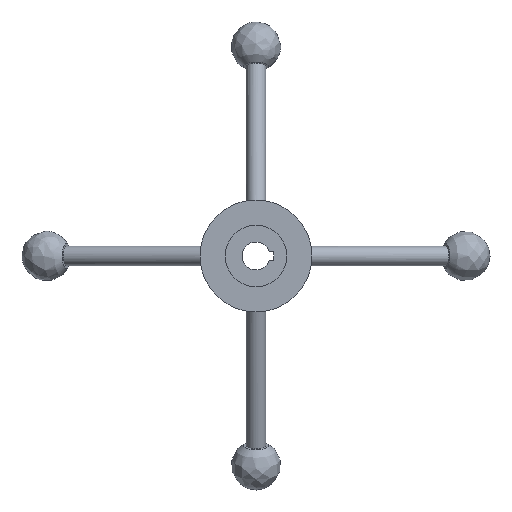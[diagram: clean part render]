
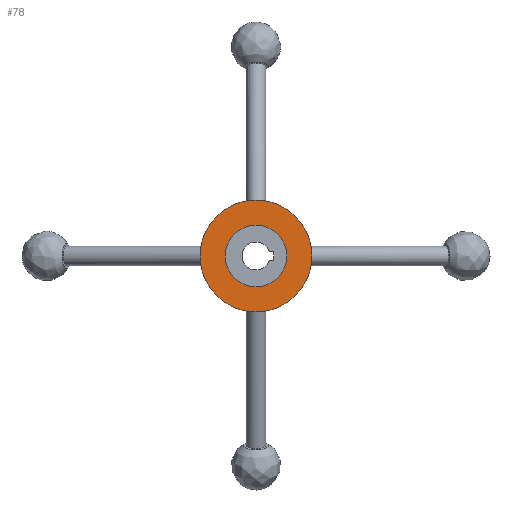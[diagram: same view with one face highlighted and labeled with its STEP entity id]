
A CAD part, front view. The second image highlights one B-rep face of the part: STEP entity #78.
In plain terms, the highlighted planar face has unit normal (0, -1, 0).
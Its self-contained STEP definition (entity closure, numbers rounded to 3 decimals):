
#78 = ADVANCED_FACE( '', ( #107, #108 ), #109, .F. );
#107 = FACE_BOUND( '', #173, .T. );
#108 = FACE_OUTER_BOUND( '', #174, .T. );
#109 = PLANE( '', #175 );
#173 = EDGE_LOOP( '', ( #384 ) );
#174 = EDGE_LOOP( '', ( #385 ) );
#175 = AXIS2_PLACEMENT_3D( '', #386, #387, #388 );
#384 = ORIENTED_EDGE( '', *, *, #489, .F. );
#385 = ORIENTED_EDGE( '', *, *, #490, .T. );
#386 = CARTESIAN_POINT( '', ( 40., 16., 0. ) );
#387 = DIRECTION( '', ( 0., 1., 0. ) );
#388 = DIRECTION( '', ( 0., 0., 1. ) );
#489 = EDGE_CURVE( '', #529, #529, #530, .T. );
#490 = EDGE_CURVE( '', #531, #531, #532, .T. );
#529 = VERTEX_POINT( '', #671 );
#530 = CIRCLE( '', #672, 22. );
#531 = VERTEX_POINT( '', #673 );
#532 = CIRCLE( '', #674, 40. );
#671 = CARTESIAN_POINT( '', ( 0., 16., -22. ) );
#672 = AXIS2_PLACEMENT_3D( '', #993, #994, #995 );
#673 = CARTESIAN_POINT( '', ( 0., 16., -40. ) );
#674 = AXIS2_PLACEMENT_3D( '', #996, #997, #998 );
#993 = CARTESIAN_POINT( '', ( 0., 16., 0. ) );
#994 = DIRECTION( '', ( 0., -1., 0. ) );
#995 = DIRECTION( '', ( 0., 0., -1. ) );
#996 = CARTESIAN_POINT( '', ( 0., 16., 0. ) );
#997 = DIRECTION( '', ( 0., -1., 0. ) );
#998 = DIRECTION( '', ( 0., 0., -1. ) );
